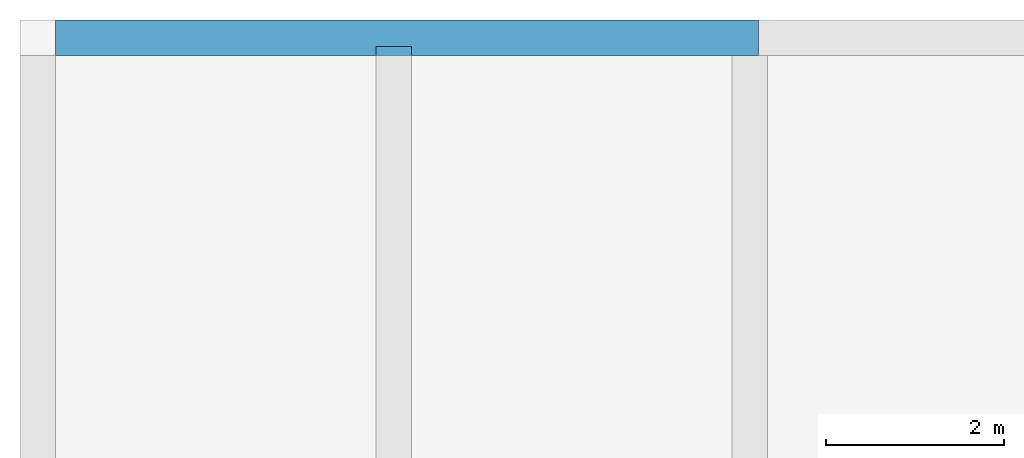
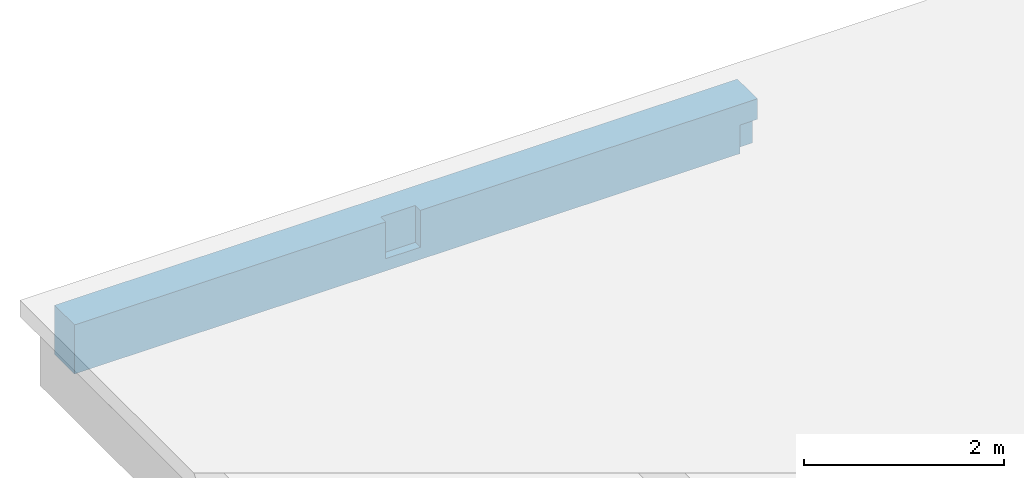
# One storey, part 2 of 2: 1 beam.
"""IFC4X3_ADD2 building model written with IfcOpenShell, lengths in millimetres."""

from ifc_helpers import new_model, entity, si_unit, converted_unit, derived_unit, direction, frame, frame_2d, origin, place, context, subcontext, project, spatial, rectangle, faceted_brep, source, transform, mapped, material, material_profile, profile_set, type_object, type_shapes, element, save


model = new_model("IFC4X3_ADD2")

# Units and contexts
model_context = context("Model", 3, precision=0.01, world=origin(), true_north=direction((6.123233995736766e-17, 1.0)))
plan_context = context("Plan", 3, precision=0.01, world=origin(), true_north=direction((6.123233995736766e-17, 1.0)))
body_context = subcontext(model_context, "Body", "Model", "MODEL_VIEW")
ifc_project = project(units=[si_unit("LENGTHUNIT", "METRE", prefix="MILLI"), converted_unit("PLANEANGLEUNIT", "DEGREE", entity("IfcPlaneAngleMeasure", 0.017453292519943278), si_unit("PLANEANGLEUNIT", "RADIAN"), dimensions=[0, 0, 0, 0, 0, 0, 0]), si_unit("AREAUNIT", "SQUARE_METRE"), si_unit("VOLUMEUNIT", "CUBIC_METRE"), derived_unit("THERMALTRANSMITTANCEUNIT", [(si_unit("MASSUNIT", "GRAM", prefix="KILO"), 1), (si_unit("THERMODYNAMICTEMPERATUREUNIT", "KELVIN"), -1), (si_unit("TIMEUNIT", "SECOND"), -3)]), derived_unit("USERDEFINED", [(si_unit("MASSUNIT", "GRAM", prefix="KILO"), 1), (si_unit("THERMODYNAMICTEMPERATUREUNIT", "KELVIN"), -1), (si_unit("TIMEUNIT", "SECOND"), -2)]), derived_unit("THERMALRESISTANCEUNIT", [(si_unit("MASSUNIT", "GRAM", prefix="KILO"), -1), (si_unit("TIMEUNIT", "SECOND"), 3), (si_unit("THERMODYNAMICTEMPERATUREUNIT", "KELVIN"), 1)]), si_unit("PRESSUREUNIT", "PASCAL"), derived_unit("MASSDENSITYUNIT", [(si_unit("MASSUNIT", "GRAM", prefix="KILO"), 1), (si_unit("LENGTHUNIT", "METRE"), -3)]), derived_unit("MODULUSOFELASTICITYUNIT", [(si_unit("MASSUNIT", "GRAM", prefix="KILO"), 1), (si_unit("TIMEUNIT", "SECOND"), -2), (si_unit("LENGTHUNIT", "METRE"), -1)]), derived_unit("THERMALEXPANSIONCOEFFICIENTUNIT", [(si_unit("THERMODYNAMICTEMPERATUREUNIT", "KELVIN"), -1)]), derived_unit("VAPORPERMEABILITYUNIT", [(si_unit("LENGTHUNIT", "METRE"), -1), (si_unit("TIMEUNIT", "SECOND"), 1)]), derived_unit("USERDEFINED", [(si_unit("MASSUNIT", "GRAM", prefix="KILO"), 1), (si_unit("TIMEUNIT", "SECOND"), -3), (si_unit("LENGTHUNIT", "METRE"), 3), (si_unit("ELECTRICCURRENTUNIT", "AMPERE"), -2)]), derived_unit("SPECIFICHEATCAPACITYUNIT", [(si_unit("THERMODYNAMICTEMPERATUREUNIT", "KELVIN"), -1), (si_unit("TIMEUNIT", "SECOND"), -2), (si_unit("LENGTHUNIT", "METRE"), 2)]), derived_unit("THERMALCONDUCTANCEUNIT", [(si_unit("MASSUNIT", "GRAM", prefix="KILO"), 1), (si_unit("THERMODYNAMICTEMPERATUREUNIT", "KELVIN"), -1), (si_unit("TIMEUNIT", "SECOND"), -3), (si_unit("LENGTHUNIT", "METRE"), 1)])], contexts=[model_context, plan_context])

# Site, building, storey
site_placement = place(None, origin())
site = spatial("IfcSite", under=ifc_project, at=site_placement, Name="Default", CompositionType="ELEMENT")
building_placement = place(site_placement, origin())
building = spatial("IfcBuilding", under=site, at=building_placement, Name="Building Name", CompositionType="ELEMENT")
storey_placement = place(building_placement, frame((0.0, 0.0, 16000.0)))
storey = spatial("IfcBuildingStorey", under=building, at=storey_placement, Name="L5", CompositionType="ELEMENT", Elevation=16000.000000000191)

# Beam
ifc_material = material(Name="Concrete - Cast-in-Place Concrete", Category="Concrete")
ifc_material_profile = material_profile(ifc_material, rectangle(XDim=600.0, YDim=400.0000000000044, at=frame_2d((-1.0942358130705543e-12, 2.842170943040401e-14), x_axis=(0.0, 1.0))), Name="400 x 600mm")
ifc_profile_set = profile_set([ifc_material_profile], Name="400 x 600mm")
beam_type = type_object("IfcBeamType", Name="Concrete - Rectangular Beam:400 x 600mm", PredefinedType="BEAM", material=ifc_profile_set)
shared_shape = source(origin(), body_context, "Body", "Brep", [
    faceted_brep([(7900.0, 0.0, 600.0), (7900.0, 400.0, 600.0), (0.0, 400.0, 600.0), (0.0, 0.0, 600.0), (3600.0, 0.0, 600.0), (3600.0, 100.0, 600.0), (4000.0, 100.0, 600.0), (4000.0, 0.0, 600.0), (7600.0, 0.0, 600.0), (0.0, 0.0, 0.0), (7700.0, 0.0, 0.0), (7700.0, 0.0, 150.0), (7700.0, 0.0, 350.0), (7900.0, 0.0, 350.0), (4000.0, 0.0, 150.0), (3600.0, 0.0, 150.0), (0.0, 400.0, 0.0), (7900.0, 400.0, 0.0), (7900.0, 100.0, 0.0), (7700.0, 100.0, 0.0), (0.0, 100.0, 0.0), (7700.0, 100.0, 350.0), (7900.0, 100.0, 350.0), (4000.0, 100.0, 150.0), (3600.0, 100.0, 150.0)], [[[0, 1, 2, 3, 4, 5, 6, 7, 8]], [[3, 9, 10, 11, 12, 13, 0, 8, 7, 14, 15, 4]], [[16, 17, 18, 19, 10, 9, 20]], [[1, 17, 16, 2]], [[9, 3, 2, 16, 20]], [[19, 21, 12, 11, 10]], [[21, 22, 13, 12]], [[22, 21, 19, 18]], [[6, 23, 14, 7]], [[24, 5, 4, 15]], [[1, 0, 13, 22, 18, 17]], [[23, 24, 15, 14]], [[23, 6, 5, 24]]]),
])
type_shapes(beam_type, [shared_shape])
beam_placement = place(storey_placement, frame((-12767.951236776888, 11896.696870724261, -800.0)))
element("IfcBeam", 1, at=beam_placement, inside=storey, type_object=beam_type, material=ifc_material, Name="Concrete - Rectangular Beam:400 x 600mm", ObjectType="Concrete - Rectangular Beam:400 x 600mm", PredefinedType="BEAM", context=body_context, shape_type="MappedRepresentation", body=[
    mapped(shared_shape, transform((0.0, 0.0, 0.0), scale=1.0)),
])

save(model, "model.ifc")
